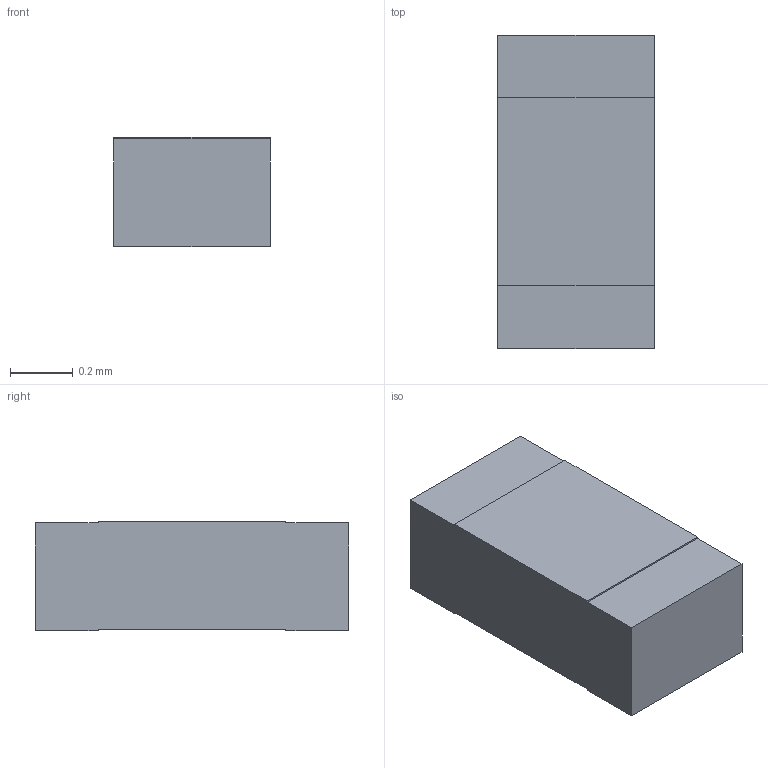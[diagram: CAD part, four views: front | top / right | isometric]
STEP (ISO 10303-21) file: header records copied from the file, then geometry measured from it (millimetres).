
FILE_DESCRIPTION(/* description */ (''),/* implementation_level */ '2;1');
FILE_NAME(/* name */ '\\wsse03\home\msaalfrank\Konstruktion\tknuschke\0402.stp',/* time_stamp */ '2020-11-09T12:41:00+01:00',/* author */ ('msaalfrank'),/* organization */ (''),/* preprocessor_version */ 'ST-DEVELOPER v16.5',/* originating_system */ 'Autodesk Inventor 2017',/* authorisation */ '');
FILE_SCHEMA (('AUTOMOTIVE_DESIGN { 1 0 10303 214 3 1 1 }'));
Length unit declared in the file: millimetre
Products named in the file (1): 0402
Bounding box: 0.5 x 1 x 0.35 mm (x, y, z)
Volume: 0.2 mm3; surface area: 2 mm2
Topology: 1 solids, 1 shells, 14 faces, 36 edges, 24 vertices
Faces by surface type: plane 14
Entity records: 481 total; most frequent: CARTESIAN_POINT 75, ORIENTED_EDGE 72, DIRECTION 66, LINE 36, VECTOR 36, EDGE_CURVE 36, VERTEX_POINT 24, AXIS2_PLACEMENT_3D 15
